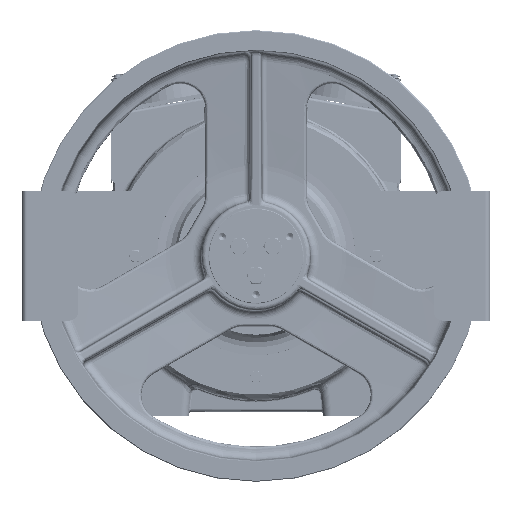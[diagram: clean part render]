
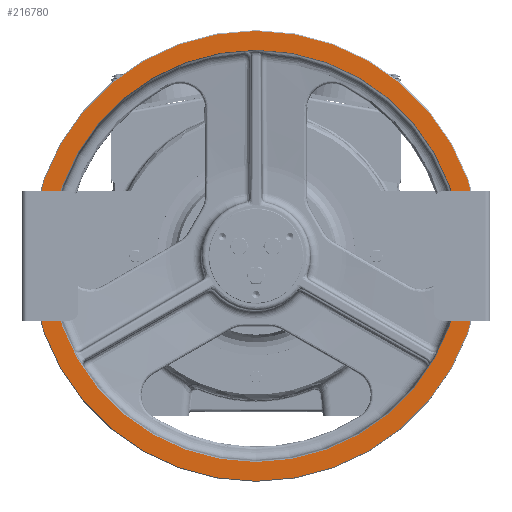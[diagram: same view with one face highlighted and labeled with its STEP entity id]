
A CAD part, top view. The second image highlights one B-rep face of the part: STEP entity #216780.
In plain terms, the highlighted planar face has unit normal (0, 0, 1) as drawn and (0, 1, 0) by its records, which use the part's own axes.
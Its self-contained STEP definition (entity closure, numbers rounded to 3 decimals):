
#202819=CARTESIAN_POINT('',(0.,39.5,0.));
#202820=DIRECTION('',(0.,-1.,0.));
#202821=DIRECTION('',(0.,0.,1.));
#202822=AXIS2_PLACEMENT_3D('',#202819,#202820,#202821);
#202824=CARTESIAN_POINT('',(0.,39.5,0.));
#202825=DIRECTION('',(0.,-1.,0.));
#202826=DIRECTION('',(0.,0.,-1.));
#202827=AXIS2_PLACEMENT_3D('',#202824,#202825,#202826);
#202844=CARTESIAN_POINT('',(0.,39.5,0.));
#202845=DIRECTION('',(0.,-1.,0.));
#202846=DIRECTION('',(0.,0.,-1.));
#202847=AXIS2_PLACEMENT_3D('',#202844,#202845,#202846);
#202849=CARTESIAN_POINT('',(0.,39.5,0.));
#202850=DIRECTION('',(0.,-1.,0.));
#202851=DIRECTION('',(0.,0.,1.));
#202852=AXIS2_PLACEMENT_3D('',#202849,#202850,#202851);
#202854=CARTESIAN_POINT('',(0.,39.5,0.));
#202855=DIRECTION('',(0.,1.,0.));
#202856=DIRECTION('',(0.,0.,-1.));
#202857=AXIS2_PLACEMENT_3D('',#202854,#202855,#202856);
#202859=CARTESIAN_POINT('',(0.,39.5,0.));
#202860=DIRECTION('',(0.,1.,0.));
#202861=DIRECTION('',(0.,0.,1.));
#202862=AXIS2_PLACEMENT_3D('',#202859,#202860,#202861);
#215353=CARTESIAN_POINT('',(0.,39.5,
-239.165));
#215354=VERTEX_POINT('',#215353);
#215355=CARTESIAN_POINT('',(0.,39.5,
239.165));
#215356=VERTEX_POINT('',#215355);
#215357=CARTESIAN_POINT('',(-0.149,39.5,
239.165));
#215358=VERTEX_POINT('',#215357);
#215359=CARTESIAN_POINT('',(0.149,39.5,
-239.165));
#215360=VERTEX_POINT('',#215359);
#215361=CARTESIAN_POINT('',(0.,39.5,-261.));
#215362=CARTESIAN_POINT('',(0.,39.5,261.));
#215363=VERTEX_POINT('',#215361);
#215364=VERTEX_POINT('',#215362);
#216763=CARTESIAN_POINT('',(0.,39.5,0.));
#216764=DIRECTION('',(0.,1.,0.));
#216765=DIRECTION('',(0.,0.,-1.));
#216766=AXIS2_PLACEMENT_3D('',#216763,#216764,#216765);
#216767=PLANE('',#216766);
#216769=ORIENTED_EDGE('',*,*,#216768,.T.);
#216771=ORIENTED_EDGE('',*,*,#216770,.T.);
#216772=EDGE_LOOP('',(#216769,#216771));
#216773=FACE_OUTER_BOUND('',#216772,.F.);
#216774=ORIENTED_EDGE('',*,*,#216742,.T.);
#216775=ORIENTED_EDGE('',*,*,#216740,.F.);
#216776=ORIENTED_EDGE('',*,*,#216755,.T.);
#216777=ORIENTED_EDGE('',*,*,#216753,.F.);
#216778=EDGE_LOOP('',(#216774,#216775,#216776,#216777));
#216779=FACE_BOUND('',#216778,.F.);
#216780=ADVANCED_FACE('',(#216773,#216779),#216767,.T.);
#202823=CIRCLE('',#202822,239.165);
#202828=CIRCLE('',#202827,239.165);
#202848=CIRCLE('',#202847,261.);
#202853=CIRCLE('',#202852,261.);
#202858=CIRCLE('',#202857,239.165);
#202863=CIRCLE('',#202862,239.165);
#216740=EDGE_CURVE('',#215356,#215358,#202823,.T.);
#216742=EDGE_CURVE('',#215354,#215358,#202858,.T.);
#216753=EDGE_CURVE('',#215354,#215360,#202828,.T.);
#216755=EDGE_CURVE('',#215356,#215360,#202863,.T.);
#216768=EDGE_CURVE('',#215363,#215364,#202848,.T.);
#216770=EDGE_CURVE('',#215364,#215363,#202853,.T.);
